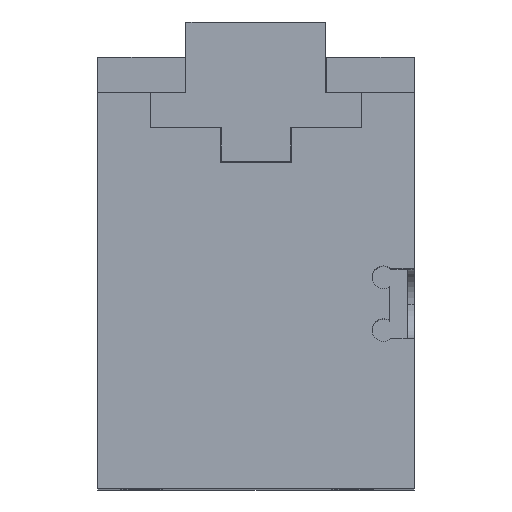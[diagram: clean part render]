
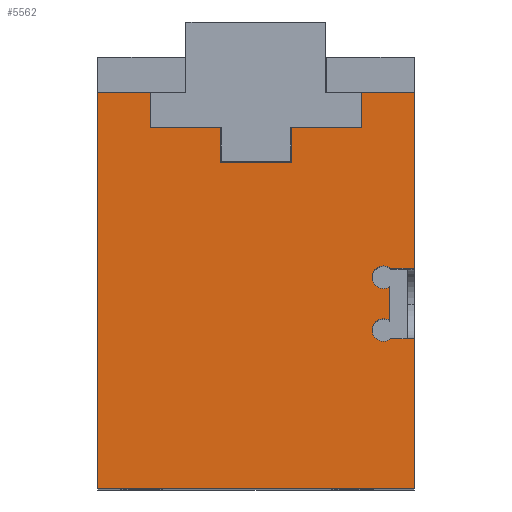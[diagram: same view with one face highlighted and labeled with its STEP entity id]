
A CAD part, top view. The second image highlights one B-rep face of the part: STEP entity #5562.
In plain terms, the highlighted planar face has unit normal (0, 0, 1).
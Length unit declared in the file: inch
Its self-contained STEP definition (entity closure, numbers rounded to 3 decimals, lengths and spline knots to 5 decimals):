
#20 = VECTOR ( 'NONE', #2916, 39.37008 ) ;
#36 = PLANE ( 'NONE',  #4844 ) ;
#75 = VECTOR ( 'NONE', #960, 39.37008 ) ;
#127 = DIRECTION ( 'NONE',  ( 1., 0., 0. ) ) ;
#128 = VERTEX_POINT ( 'NONE', #2083 ) ;
#133 = CARTESIAN_POINT ( 'NONE',  ( 0.374, 2.562, 0. ) ) ;
#193 = EDGE_CURVE ( 'NONE', #5795, #1898, #4923, .T. ) ;
#232 = LINE ( 'NONE', #3352, #4645 ) ;
#246 = EDGE_CURVE ( 'NONE', #1253, #3539, #232, .T. ) ;
#285 = LINE ( 'NONE', #4185, #1358 ) ;
#307 = VERTEX_POINT ( 'NONE', #877 ) ;
#316 = DIRECTION ( 'NONE',  ( -1., 0., 0. ) ) ;
#318 = ORIENTED_EDGE ( 'NONE', *, *, #5807, .T. ) ;
#417 = CARTESIAN_POINT ( 'NONE',  ( 2.25, 2.812, 0. ) ) ;
#477 = ORIENTED_EDGE ( 'NONE', *, *, #246, .T. ) ;
#719 = CARTESIAN_POINT ( 'NONE',  ( 0.374, 2.812, 0. ) ) ;
#809 = DIRECTION ( 'NONE',  ( 0., 0., 1. ) ) ;
#877 = CARTESIAN_POINT ( 'NONE',  ( 0., 2.812, 0. ) ) ;
#918 = ORIENTED_EDGE ( 'NONE', *, *, #193, .F. ) ;
#960 = DIRECTION ( 'NONE',  ( 1., 0., 0. ) ) ;
#1045 = ORIENTED_EDGE ( 'NONE', *, *, #1870, .F. ) ;
#1126 = LINE ( 'NONE', #2826, #20 ) ;
#1129 = ORIENTED_EDGE ( 'NONE', *, *, #2448, .F. ) ;
#1136 = ORIENTED_EDGE ( 'NONE', *, *, #1556, .T. ) ;
#1249 = ORIENTED_EDGE ( 'NONE', *, *, #1913, .T. ) ;
#1253 = VERTEX_POINT ( 'NONE', #3772 ) ;
#1256 = DIRECTION ( 'NONE',  ( -1., 0., 0. ) ) ;
#1264 = ORIENTED_EDGE ( 'NONE', *, *, #1475, .F. ) ;
#1304 = LINE ( 'NONE', #2311, #75 ) ;
#1326 = CARTESIAN_POINT ( 'NONE',  ( 1.875, 2.562, 0. ) ) ;
#1358 = VECTOR ( 'NONE', #1451, 39.37008 ) ;
#1377 = LINE ( 'NONE', #3118, #3659 ) ;
#1406 = VERTEX_POINT ( 'NONE', #3471 ) ;
#1424 = FACE_OUTER_BOUND ( 'NONE', #2796, .T. ) ;
#1451 = DIRECTION ( 'NONE',  ( -1., 0., 0. ) ) ;
#1474 = CARTESIAN_POINT ( 'NONE',  ( 2.08123, 1.562, 0. ) ) ;
#1475 = EDGE_CURVE ( 'NONE', #2688, #2475, #2335, .T. ) ;
#1504 = CARTESIAN_POINT ( 'NONE',  ( 0.874, 2.562, 0. ) ) ;
#1545 = LINE ( 'NONE', #4287, #3824 ) ;
#1556 = EDGE_CURVE ( 'NONE', #307, #1253, #5381, .T. ) ;
#1563 = DIRECTION ( 'NONE',  ( 0., 1., 0. ) ) ;
#1612 = AXIS2_PLACEMENT_3D ( 'NONE', #5581, #2875, #127 ) ;
#1712 = CARTESIAN_POINT ( 'NONE',  ( 0.374, 2.812, 0. ) ) ;
#1870 = EDGE_CURVE ( 'NONE', #3848, #2333, #4884, .T. ) ;
#1898 = VERTEX_POINT ( 'NONE', #3035 ) ;
#1899 = VECTOR ( 'NONE', #3898, 39.37008 ) ;
#1913 = EDGE_CURVE ( 'NONE', #1406, #3914, #1126, .T. ) ;
#1960 = VERTEX_POINT ( 'NONE', #1474 ) ;
#2065 = CARTESIAN_POINT ( 'NONE',  ( 2.08123, 1.062, 0. ) ) ;
#2083 = CARTESIAN_POINT ( 'NONE',  ( 0.874, 2.312, 0. ) ) ;
#2087 = CARTESIAN_POINT ( 'NONE',  ( 2.25, 1.062, 0. ) ) ;
#2102 = VERTEX_POINT ( 'NONE', #1712 ) ;
#2103 = DIRECTION ( 'NONE',  ( 1., 0., 0. ) ) ;
#2239 = VERTEX_POINT ( 'NONE', #5561 ) ;
#2311 = CARTESIAN_POINT ( 'NONE',  ( 0.874, 2.312, 0. ) ) ;
#2333 = VERTEX_POINT ( 'NONE', #3796 ) ;
#2335 = LINE ( 'NONE', #2065, #4609 ) ;
#2397 = CIRCLE ( 'NONE', #5055, 0.0805 ) ;
#2448 = EDGE_CURVE ( 'NONE', #2102, #5795, #3114, .T. ) ;
#2475 = VERTEX_POINT ( 'NONE', #2087 ) ;
#2530 = ORIENTED_EDGE ( 'NONE', *, *, #3400, .F. ) ;
#2583 = EDGE_CURVE ( 'NONE', #1960, #4539, #2397, .T. ) ;
#2657 = DIRECTION ( 'NONE',  ( -1., 0., 0. ) ) ;
#2659 = ORIENTED_EDGE ( 'NONE', *, *, #2948, .F. ) ;
#2688 = VERTEX_POINT ( 'NONE', #5064 ) ;
#2723 = LINE ( 'NONE', #5747, #3797 ) ;
#2738 = EDGE_CURVE ( 'NONE', #2239, #2688, #4257, .T. ) ;
#2785 = CARTESIAN_POINT ( 'NONE',  ( 1.374, 2.562, 0. ) ) ;
#2796 = EDGE_LOOP ( 'NONE', ( #3458, #2530, #1249, #318, #5580, #4665, #1045, #2817, #3612, #918, #1129, #3683, #1136, #477, #4274, #1264, #2922, #2659 ) ) ;
#2811 = EDGE_CURVE ( 'NONE', #4879, #4957, #1545, .T. ) ;
#2817 = ORIENTED_EDGE ( 'NONE', *, *, #3593, .F. ) ;
#2826 = CARTESIAN_POINT ( 'NONE',  ( 2.25, 0., 0. ) ) ;
#2875 = DIRECTION ( 'NONE',  ( 0., 0., 1. ) ) ;
#2916 = DIRECTION ( 'NONE',  ( 0., 1., 0. ) ) ;
#2922 = ORIENTED_EDGE ( 'NONE', *, *, #2738, .F. ) ;
#2948 = EDGE_CURVE ( 'NONE', #4539, #2239, #3109, .T. ) ;
#3035 = CARTESIAN_POINT ( 'NONE',  ( 0.874, 2.562, 0. ) ) ;
#3109 = LINE ( 'NONE', #3538, #5508 ) ;
#3114 = LINE ( 'NONE', #719, #1899 ) ;
#3118 = CARTESIAN_POINT ( 'NONE',  ( 2.08123, 1.562, 0. ) ) ;
#3124 = VECTOR ( 'NONE', #3680, 39.37008 ) ;
#3221 = VECTOR ( 'NONE', #4688, 39.37008 ) ;
#3352 = CARTESIAN_POINT ( 'NONE',  ( 0., 0., 0. ) ) ;
#3400 = EDGE_CURVE ( 'NONE', #1406, #1960, #1377, .T. ) ;
#3458 = ORIENTED_EDGE ( 'NONE', *, *, #2583, .F. ) ;
#3462 = EDGE_CURVE ( 'NONE', #3539, #2475, #5491, .T. ) ;
#3471 = CARTESIAN_POINT ( 'NONE',  ( 2.25, 1.562, 0. ) ) ;
#3531 = CARTESIAN_POINT ( 'NONE',  ( 2.0305, 1.4995, 0. ) ) ;
#3538 = CARTESIAN_POINT ( 'NONE',  ( 2.0765, 1.43344, 0. ) ) ;
#3539 = VERTEX_POINT ( 'NONE', #5442 ) ;
#3593 = EDGE_CURVE ( 'NONE', #128, #3848, #1304, .T. ) ;
#3612 = ORIENTED_EDGE ( 'NONE', *, *, #4990, .F. ) ;
#3614 = DIRECTION ( 'NONE',  ( 0., 1., 0. ) ) ;
#3617 = EDGE_CURVE ( 'NONE', #2333, #4879, #4792, .T. ) ;
#3659 = VECTOR ( 'NONE', #2657, 39.37008 ) ;
#3680 = DIRECTION ( 'NONE',  ( 0., -1., 0. ) ) ;
#3682 = VECTOR ( 'NONE', #3743, 39.37008 ) ;
#3683 = ORIENTED_EDGE ( 'NONE', *, *, #4825, .T. ) ;
#3719 = CARTESIAN_POINT ( 'NONE',  ( 2.0765, 1.43344, 0. ) ) ;
#3725 = VECTOR ( 'NONE', #5131, 39.37008 ) ;
#3727 = VECTOR ( 'NONE', #5503, 39.37008 ) ;
#3743 = DIRECTION ( 'NONE',  ( 0., 1., 0. ) ) ;
#3772 = CARTESIAN_POINT ( 'NONE',  ( 0., 0., 0. ) ) ;
#3781 = CARTESIAN_POINT ( 'NONE',  ( 1.374, 2.562, 0. ) ) ;
#3796 = CARTESIAN_POINT ( 'NONE',  ( 1.374, 2.562, 0. ) ) ;
#3797 = VECTOR ( 'NONE', #316, 39.37008 ) ;
#3807 = CARTESIAN_POINT ( 'NONE',  ( 0., 0., 0. ) ) ;
#3824 = VECTOR ( 'NONE', #1563, 39.37008 ) ;
#3848 = VERTEX_POINT ( 'NONE', #5281 ) ;
#3898 = DIRECTION ( 'NONE',  ( 0., -1., 0. ) ) ;
#3914 = VERTEX_POINT ( 'NONE', #417 ) ;
#3987 = DIRECTION ( 'NONE',  ( 0., 0., -1. ) ) ;
#3992 = DIRECTION ( 'NONE',  ( 1., 0., 0. ) ) ;
#4068 = CARTESIAN_POINT ( 'NONE',  ( 2.25, 0., 0. ) ) ;
#4162 = CARTESIAN_POINT ( 'NONE',  ( 0.374, 2.562, 0. ) ) ;
#4185 = CARTESIAN_POINT ( 'NONE',  ( 0., 2.812, 0. ) ) ;
#4257 = CIRCLE ( 'NONE', #1612, 0.0805 ) ;
#4274 = ORIENTED_EDGE ( 'NONE', *, *, #3462, .T. ) ;
#4287 = CARTESIAN_POINT ( 'NONE',  ( 1.875, 2.812, 0. ) ) ;
#4301 = LINE ( 'NONE', #1504, #3221 ) ;
#4539 = VERTEX_POINT ( 'NONE', #3719 ) ;
#4609 = VECTOR ( 'NONE', #2103, 39.37008 ) ;
#4614 = CARTESIAN_POINT ( 'NONE',  ( 0., 0., 0. ) ) ;
#4645 = VECTOR ( 'NONE', #5383, 39.37008 ) ;
#4665 = ORIENTED_EDGE ( 'NONE', *, *, #3617, .F. ) ;
#4688 = DIRECTION ( 'NONE',  ( 0., -1., 0. ) ) ;
#4792 = LINE ( 'NONE', #2785, #3727 ) ;
#4825 = EDGE_CURVE ( 'NONE', #2102, #307, #2723, .T. ) ;
#4844 = AXIS2_PLACEMENT_3D ( 'NONE', #4614, #3987, #1256 ) ;
#4879 = VERTEX_POINT ( 'NONE', #1326 ) ;
#4884 = LINE ( 'NONE', #3781, #3682 ) ;
#4923 = LINE ( 'NONE', #133, #3725 ) ;
#4957 = VERTEX_POINT ( 'NONE', #5546 ) ;
#4990 = EDGE_CURVE ( 'NONE', #1898, #128, #4301, .T. ) ;
#5055 = AXIS2_PLACEMENT_3D ( 'NONE', #3531, #809, #3992 ) ;
#5064 = CARTESIAN_POINT ( 'NONE',  ( 2.08123, 1.062, 0. ) ) ;
#5131 = DIRECTION ( 'NONE',  ( 1., 0., 0. ) ) ;
#5281 = CARTESIAN_POINT ( 'NONE',  ( 1.374, 2.312, 0. ) ) ;
#5351 = VECTOR ( 'NONE', #3614, 39.37008 ) ;
#5381 = LINE ( 'NONE', #3807, #3124 ) ;
#5383 = DIRECTION ( 'NONE',  ( 1., 0., 0. ) ) ;
#5442 = CARTESIAN_POINT ( 'NONE',  ( 2.25, 0., 0. ) ) ;
#5491 = LINE ( 'NONE', #4068, #5351 ) ;
#5503 = DIRECTION ( 'NONE',  ( 1., 0., 0. ) ) ;
#5508 = VECTOR ( 'NONE', #5784, 39.37008 ) ;
#5546 = CARTESIAN_POINT ( 'NONE',  ( 1.875, 2.812, 0. ) ) ;
#5561 = CARTESIAN_POINT ( 'NONE',  ( 2.0765, 1.19056, 0. ) ) ;
#5562 = ADVANCED_FACE ( 'NONE', ( #1424 ), #36, .F. ) ;
#5580 = ORIENTED_EDGE ( 'NONE', *, *, #2811, .F. ) ;
#5581 = CARTESIAN_POINT ( 'NONE',  ( 2.0305, 1.1245, 0. ) ) ;
#5747 = CARTESIAN_POINT ( 'NONE',  ( 0., 2.812, 0. ) ) ;
#5784 = DIRECTION ( 'NONE',  ( 0., -1., 0. ) ) ;
#5795 = VERTEX_POINT ( 'NONE', #4162 ) ;
#5807 = EDGE_CURVE ( 'NONE', #3914, #4957, #285, .T. ) ;
